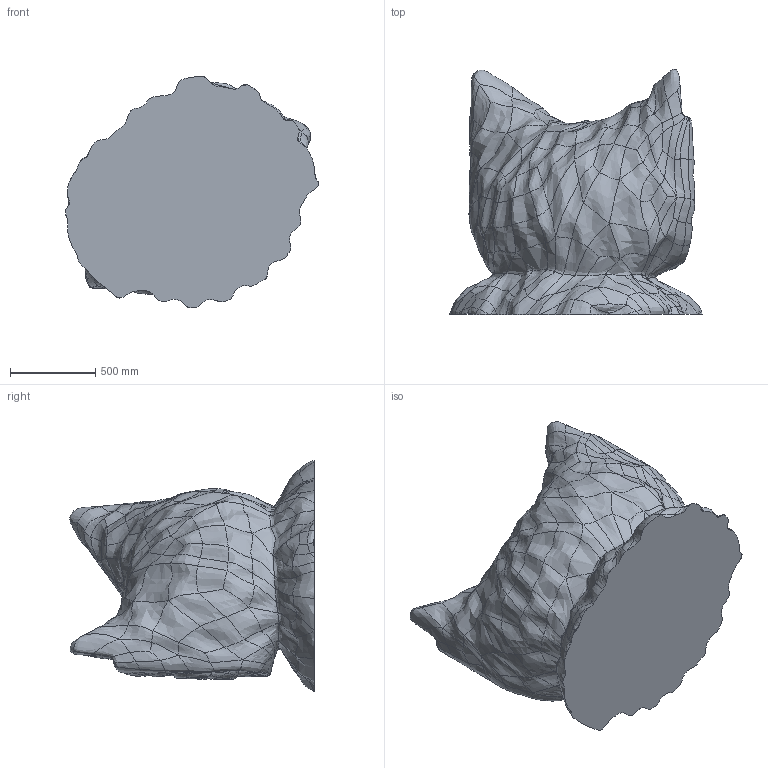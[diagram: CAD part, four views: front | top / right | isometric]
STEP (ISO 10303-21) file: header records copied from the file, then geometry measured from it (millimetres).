
FILE_DESCRIPTION(/* description */ ('Alibre Inc.'),/* implementation_level */ '2;1');
FILE_NAME(/* name */ 'export0',/* time_stamp */ '2014-05-09T17:30:57-06:00',/* author */ (''),/* organization */ (''),/* preprocessor_version */ 'ST-DEVELOPER v14',/* originating_system */ 'Alibre',/* authorisation */ '');
FILE_SCHEMA (('CONFIG_CONTROL_DESIGN'));
Length unit declared in the file: centimetre
Products named in the file (1): ID_1
Bounding box: 1483.91 x 1434.84 x 1357.2 mm (x, y, z)
Volume: 1113844056.9 mm3; surface area: 7615430.7 mm2
Topology: 1 solids, 1 shells, 540 faces, 1106 edges, 568 vertices
Faces by surface type: bspline 539, plane 1
Entity records: 82183 total; most frequent: CARTESIAN_POINT 74933, ORIENTED_EDGE 2212, B_SPLINE_CURVE_WITH_KNOTS 1106, EDGE_CURVE 1106, VERTEX_POINT 568, EDGE_LOOP 540, FACE_BOUND 540, ADVANCED_FACE 540
